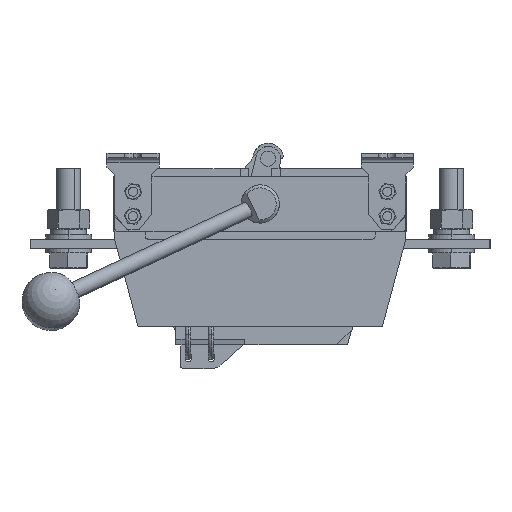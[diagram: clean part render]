
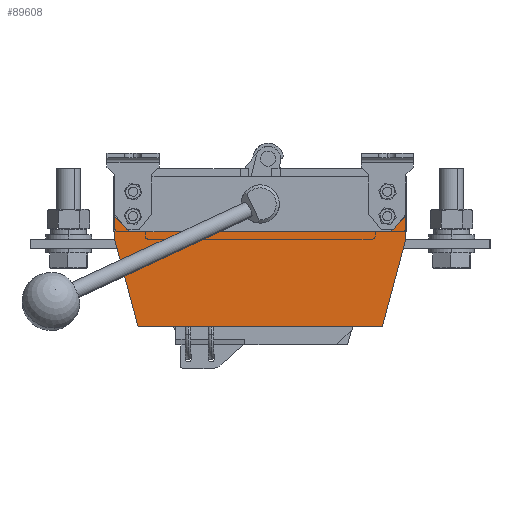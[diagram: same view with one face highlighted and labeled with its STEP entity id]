
A CAD part, left-side view. The second image highlights one B-rep face of the part: STEP entity #89608.
In plain terms, the highlighted planar face has unit normal (-1, 0, 0).
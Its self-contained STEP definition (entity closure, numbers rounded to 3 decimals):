
#2738 = ORIENTED_EDGE ( 'NONE', *, *, #68767, .T. ) ;
#2855 = VERTEX_POINT ( 'NONE', #13896 ) ;
#4257 = DIRECTION ( 'NONE',  ( 0., -0.259, -0.966 ) ) ;
#5339 = ORIENTED_EDGE ( 'NONE', *, *, #38679, .F. ) ;
#5369 = VERTEX_POINT ( 'NONE', #57620 ) ;
#6598 = CARTESIAN_POINT ( 'NONE',  ( -111., 0., 0. ) ) ;
#8105 = VECTOR ( 'NONE', #56081, 1000. ) ;
#8216 = EDGE_CURVE ( 'NONE', #48744, #5369, #35960, .T. ) ;
#9342 = CARTESIAN_POINT ( 'NONE',  ( -111., -95., -23. ) ) ;
#10235 = ORIENTED_EDGE ( 'NONE', *, *, #20467, .F. ) ;
#11153 = CARTESIAN_POINT ( 'NONE',  ( -111., -79.5, -8. ) ) ;
#11501 = DIRECTION ( 'NONE',  ( 0., 1., 0. ) ) ;
#11552 = VECTOR ( 'NONE', #17228, 1000. ) ;
#11941 = LINE ( 'NONE', #41897, #19805 ) ;
#12677 = FACE_BOUND ( 'NONE', #26015, .T. ) ;
#13851 = DIRECTION ( 'NONE',  ( -1., 0., 0. ) ) ;
#13896 = CARTESIAN_POINT ( 'NONE',  ( -111., -95., -1. ) ) ;
#14046 = ORIENTED_EDGE ( 'NONE', *, *, #58463, .T. ) ;
#15592 = EDGE_CURVE ( 'NONE', #92508, #2855, #91320, .T. ) ;
#16458 = ORIENTED_EDGE ( 'NONE', *, *, #65684, .F. ) ;
#16796 = DIRECTION ( 'NONE',  ( 0., 1., 0. ) ) ;
#17228 = DIRECTION ( 'NONE',  ( 0., 0., 1. ) ) ;
#17668 = DIRECTION ( 'NONE',  ( 1., 0., 0. ) ) ;
#18770 = EDGE_LOOP ( 'NONE', ( #5339, #10235 ) ) ;
#18940 = CIRCLE ( 'NONE', #69427, 3.5 ) ;
#19805 = VECTOR ( 'NONE', #43486, 1000. ) ;
#20467 = EDGE_CURVE ( 'NONE', #57775, #85991, #69015, .T. ) ;
#21896 = VERTEX_POINT ( 'NONE', #49962 ) ;
#22168 = DIRECTION ( 'NONE',  ( -1., 0., 0. ) ) ;
#22229 = CARTESIAN_POINT ( 'NONE',  ( -111., 79.5, -8. ) ) ;
#22558 = AXIS2_PLACEMENT_3D ( 'NONE', #55184, #32579, #11501 ) ;
#23671 = VECTOR ( 'NONE', #89502, 1000. ) ;
#26015 = EDGE_LOOP ( 'NONE', ( #67222, #16458 ) ) ;
#26836 = CARTESIAN_POINT ( 'NONE',  ( -111., 86.5, -8. ) ) ;
#27428 = EDGE_CURVE ( 'NONE', #21896, #63565, #54284, .T. ) ;
#28307 = CARTESIAN_POINT ( 'NONE',  ( -111., -83., -8. ) ) ;
#28919 = PLANE ( 'NONE',  #63101 ) ;
#29006 = DIRECTION ( 'NONE',  ( -1., 0., 0. ) ) ;
#32579 = DIRECTION ( 'NONE',  ( -1., 0., 0. ) ) ;
#32918 = FACE_BOUND ( 'NONE', #18770, .T. ) ;
#33758 = CARTESIAN_POINT ( 'NONE',  ( -111., 79.727, -80. ) ) ;
#34872 = CARTESIAN_POINT ( 'NONE',  ( -111., 7.937, -1. ) ) ;
#35087 = ORIENTED_EDGE ( 'NONE', *, *, #80040, .T. ) ;
#35960 = LINE ( 'NONE', #76268, #23671 ) ;
#36130 = DIRECTION ( 'NONE',  ( 0., -0.259, 0.966 ) ) ;
#36569 = DIRECTION ( 'NONE',  ( 0., -1., 0. ) ) ;
#37194 = CARTESIAN_POINT ( 'NONE',  ( -111., -7.937, -1. ) ) ;
#37735 = DIRECTION ( 'NONE',  ( 0., 1., 0. ) ) ;
#37991 = EDGE_CURVE ( 'NONE', #75797, #78593, #73160, .T. ) ;
#38679 = EDGE_CURVE ( 'NONE', #85991, #57775, #18940, .T. ) ;
#40029 = CIRCLE ( 'NONE', #53506, 3.5 ) ;
#40046 = VECTOR ( 'NONE', #4257, 1000. ) ;
#41897 = CARTESIAN_POINT ( 'NONE',  ( -111., 95., -1. ) ) ;
#43486 = DIRECTION ( 'NONE',  ( 0., 1., 0. ) ) ;
#47437 = VERTEX_POINT ( 'NONE', #22229 ) ;
#47916 = ORIENTED_EDGE ( 'NONE', *, *, #37991, .T. ) ;
#48362 = VECTOR ( 'NONE', #16796, 1000. ) ;
#48543 = EDGE_LOOP ( 'NONE', ( #66849, #60311, #77076, #14046, #57279, #2738, #47916, #35087 ) ) ;
#48744 = VERTEX_POINT ( 'NONE', #84884 ) ;
#49471 = CARTESIAN_POINT ( 'NONE',  ( -111., -86.5, -8. ) ) ;
#49941 = CARTESIAN_POINT ( 'NONE',  ( -111., -79.727, -80. ) ) ;
#49962 = CARTESIAN_POINT ( 'NONE',  ( -111., 79.727, -80. ) ) ;
#50161 = EDGE_CURVE ( 'NONE', #5369, #21896, #81565, .T. ) ;
#51889 = CIRCLE ( 'NONE', #22558, 3.5 ) ;
#53506 = AXIS2_PLACEMENT_3D ( 'NONE', #73176, #29006, #58168 ) ;
#54284 = LINE ( 'NONE', #56360, #8105 ) ;
#55184 = CARTESIAN_POINT ( 'NONE',  ( -111., 83., -8. ) ) ;
#56081 = DIRECTION ( 'NONE',  ( 0., -1., 0. ) ) ;
#56360 = CARTESIAN_POINT ( 'NONE',  ( -111., -79.727, -80. ) ) ;
#57279 = ORIENTED_EDGE ( 'NONE', *, *, #15592, .T. ) ;
#57620 = CARTESIAN_POINT ( 'NONE',  ( -111., 95., -23. ) ) ;
#57775 = VERTEX_POINT ( 'NONE', #11153 ) ;
#58168 = DIRECTION ( 'NONE',  ( 0., 1., 0. ) ) ;
#58463 = EDGE_CURVE ( 'NONE', #63565, #92508, #90354, .T. ) ;
#59597 = LINE ( 'NONE', #37194, #48362 ) ;
#60311 = ORIENTED_EDGE ( 'NONE', *, *, #50161, .T. ) ;
#60612 = CARTESIAN_POINT ( 'NONE',  ( -111., 0., 0. ) ) ;
#63101 = AXIS2_PLACEMENT_3D ( 'NONE', #6598, #13851, #72770 ) ;
#63565 = VERTEX_POINT ( 'NONE', #64893 ) ;
#63862 = EDGE_CURVE ( 'NONE', #88335, #47437, #51889, .T. ) ;
#64893 = CARTESIAN_POINT ( 'NONE',  ( -111., -79.727, -80. ) ) ;
#64963 = DIRECTION ( 'NONE',  ( 0., -1., 0. ) ) ;
#65105 = CARTESIAN_POINT ( 'NONE',  ( -111., -83., -8. ) ) ;
#65264 = DIRECTION ( 'NONE',  ( -1., 0., 0. ) ) ;
#65669 = VECTOR ( 'NONE', #36130, 1000. ) ;
#65684 = EDGE_CURVE ( 'NONE', #47437, #88335, #40029, .T. ) ;
#66514 = FACE_OUTER_BOUND ( 'NONE', #48543, .T. ) ;
#66849 = ORIENTED_EDGE ( 'NONE', *, *, #8216, .T. ) ;
#67222 = ORIENTED_EDGE ( 'NONE', *, *, #63862, .F. ) ;
#68767 = EDGE_CURVE ( 'NONE', #2855, #75797, #59597, .T. ) ;
#69015 = CIRCLE ( 'NONE', #87669, 3.5 ) ;
#69427 = AXIS2_PLACEMENT_3D ( 'NONE', #65105, #22168, #36569 ) ;
#72770 = DIRECTION ( 'NONE',  ( 0., 1., 0. ) ) ;
#73160 = CIRCLE ( 'NONE', #84984, 8. ) ;
#73176 = CARTESIAN_POINT ( 'NONE',  ( -111., 83., -8. ) ) ;
#75797 = VERTEX_POINT ( 'NONE', #77391 ) ;
#76268 = CARTESIAN_POINT ( 'NONE',  ( -111., 95., -23. ) ) ;
#77076 = ORIENTED_EDGE ( 'NONE', *, *, #27428, .T. ) ;
#77391 = CARTESIAN_POINT ( 'NONE',  ( -111., -7.937, -1. ) ) ;
#78593 = VERTEX_POINT ( 'NONE', #34872 ) ;
#79718 = CARTESIAN_POINT ( 'NONE',  ( -111., -95., -23. ) ) ;
#80040 = EDGE_CURVE ( 'NONE', #78593, #48744, #11941, .T. ) ;
#81565 = LINE ( 'NONE', #33758, #40046 ) ;
#84884 = CARTESIAN_POINT ( 'NONE',  ( -111., 95., -1. ) ) ;
#84984 = AXIS2_PLACEMENT_3D ( 'NONE', #60612, #17668, #37735 ) ;
#85991 = VERTEX_POINT ( 'NONE', #49471 ) ;
#87669 = AXIS2_PLACEMENT_3D ( 'NONE', #28307, #65264, #64963 ) ;
#88335 = VERTEX_POINT ( 'NONE', #26836 ) ;
#89502 = DIRECTION ( 'NONE',  ( 0., 0., -1. ) ) ;
#89608 = ADVANCED_FACE ( 'NONE', ( #12677, #66514, #32918 ), #28919, .T. ) ;
#90354 = LINE ( 'NONE', #49941, #65669 ) ;
#91320 = LINE ( 'NONE', #9342, #11552 ) ;
#92508 = VERTEX_POINT ( 'NONE', #79718 ) ;
